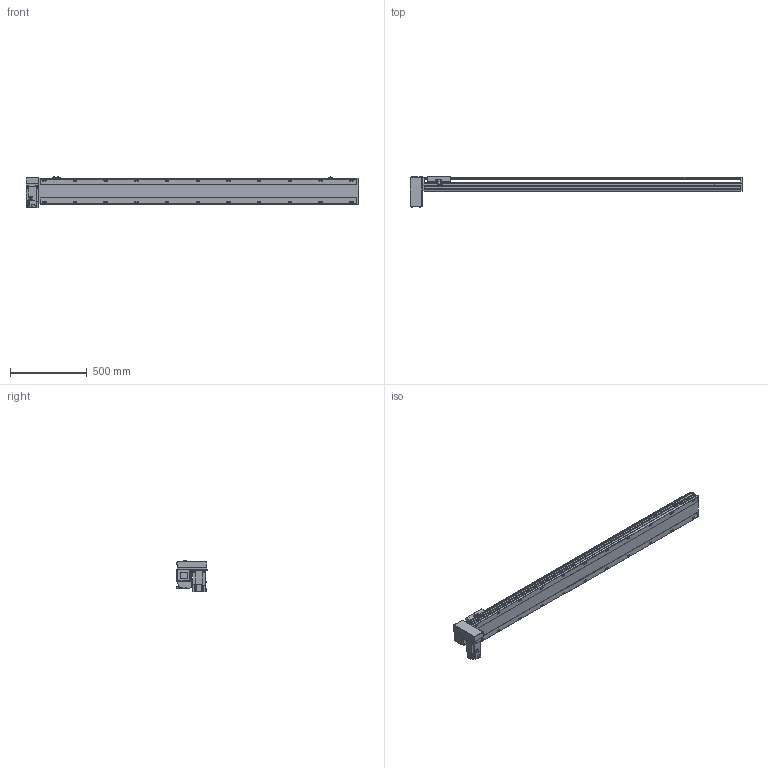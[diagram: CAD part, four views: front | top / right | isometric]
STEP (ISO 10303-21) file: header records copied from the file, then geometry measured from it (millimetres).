
FILE_DESCRIPTION(/* description */ ('STEP AP214'),/* implementation_level */ '2;1');
FILE_NAME(/* name */ 'PBS170-P40-S1800-RD-T75-C1-N(0)',/* time_stamp */ '2022-06-08T07:36:43+02:00',/* author */ ('License CC BY-ND 4.0'),/* organization */ ('CADENAS'),/* preprocessor_version */ 'ST-DEVELOPER v18.102',/* originating_system */ 'PARTsolutions',/* authorisation */ ' ');
FILE_SCHEMA (('AUTOMOTIVE_DESIGN {1 0 10303 214 3 1 1}'));
Length unit declared in the file: millimetre
Products named in the file (7): PBS170-P40-S1800-RD-T75-C1-N(0); PBS170_sensor; PBS170_plant; PBS170_sliser; T75-p1; PBS170T-RD_motors; PBS170-S1800()_body
Assembly tree (8 placements, depth 2):
  PBS170-P40-S1800-RD-T75-C1-N(0)
    PBS170_sensor  x3
    PBS170_plant
    PBS170_sliser
    T75-p1
    PBS170T-RD_motors
    PBS170-S1800()_body
Bounding box: 2163 x 201 x 205.3 mm (x, y, z)
Volume: 16692904.7 mm3; surface area: 2127027.5 mm2
Topology: 8 solids, 8 shells, 1130 faces, 2995 edges, 1952 vertices
Faces by surface type: plane 705, cylinder 363, cone 52, sphere 8, torus 2
Full cylindrical faces by diameter (mm): 3.242 x4, 4 x2, 4.4 x4, 4.5 x6, 4.917 x4, 6 x9, 6.647 x30, 7 x2, 7.5 x4, 8 x8, 8.5 x22, 10 x4, 10.5 x22, 11 x2, 30 x2, 40 x1, 70 x1
Entity records: 32492 total; most frequent: CARTESIAN_POINT 6049, DIRECTION 5510, ORIENTED_EDGE 5208, EDGE_CURVE 2604, AXIS2_PLACEMENT_3D 1927, VERTEX_POINT 1802, LINE 1656, VECTOR 1656
